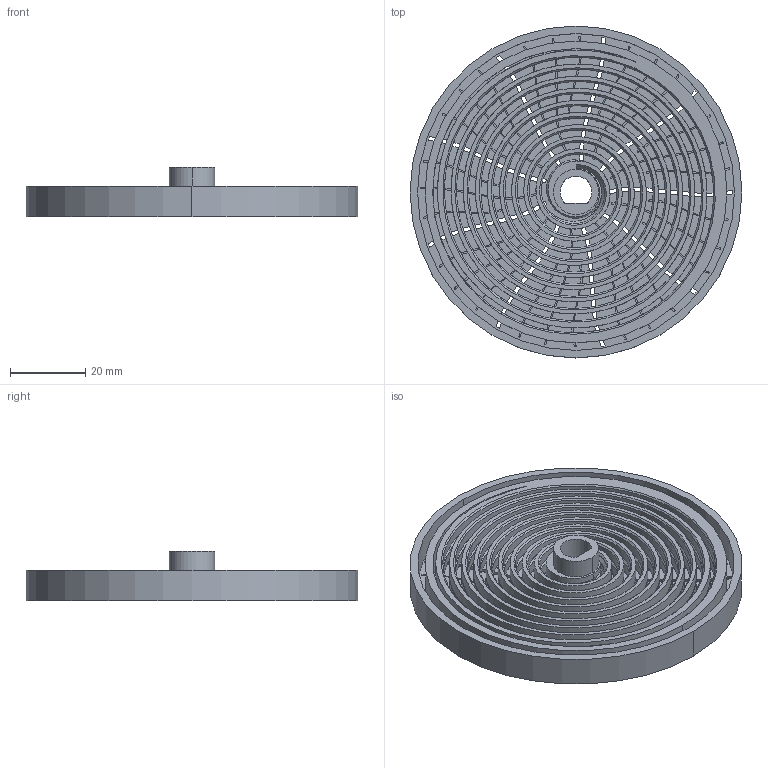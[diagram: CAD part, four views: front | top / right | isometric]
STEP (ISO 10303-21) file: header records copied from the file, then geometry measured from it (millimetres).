
FILE_DESCRIPTION (( 'STEP AP214' ), '1' );
FILE_NAME ('SpringFlat_Stiff_v3.2.1.STEP', '2019-04-24T21:24:36', ( '' ), ( '' ), 'SwSTEP 2.0', 'SolidWorks 2018', '' );
FILE_SCHEMA (( 'AUTOMOTIVE_DESIGN' ));
Length unit declared in the file: millimetre
Products named in the file (1): SpringFlat_Stiff_v3.2.1
Bounding box: 88 x 88 x 13 mm (x, y, z)
Volume: 26793.3 mm3; surface area: 45071.5 mm2
Topology: 1 solids, 1 shells, 267 faces, 708 edges, 472 vertices
Faces by surface type: cylinder 94, bspline 94, plane 72, cone 7
Entity records: 39804 total; most frequent: CARTESIAN_POINT 33643, ORIENTED_EDGE 1416, DIRECTION 1009, EDGE_CURVE 708, VERTEX_POINT 472, AXIS2_PLACEMENT_3D 380, EDGE_LOOP 320, ADVANCED_FACE 267
